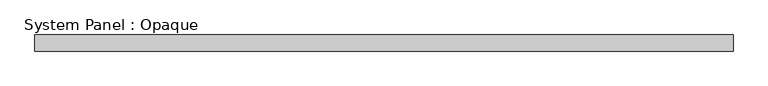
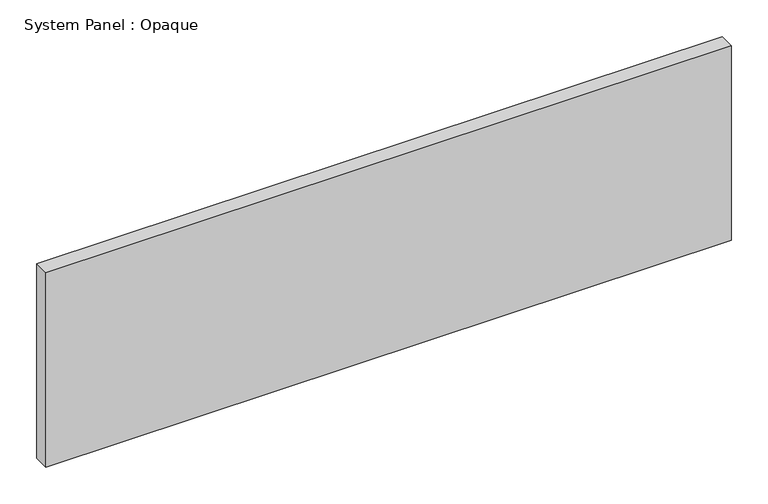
"""IFC4 building model written with IfcOpenShell, lengths in millimetres: plate geometry, System Panel : Opaque."""

from ifc_helpers import new_model, si_unit, origin, origin_with_axes, place, context, project, spatial, polyline, outline, extrude, source, transform, mapped, element, save


def system_panel_opaque_66f26a5c(model_context):
    return source(origin(), model_context, "Body", "SweptSolid", [
        extrude(outline(polyline([(541.726465, -12.5), (-541.726465, -12.5), (-541.726465, 12.5), (541.726465, 12.5), (541.726465, -12.5)])), origin_with_axes(), (0.0, 0.0, 1.0), 325.0),
    ])


if __name__ == "__main__":
    model = new_model("IFC4")
    model_context = context("Model", 3, world=origin())
    ifc_project = project(units=[si_unit("LENGTHUNIT", "METRE", prefix="MILLI")], contexts=[model_context])
    site = spatial("IfcSite", under=ifc_project)
    building = spatial("IfcBuilding", under=site)
    placement = place(None, origin())
    system_panel_opaque_shape = system_panel_opaque_66f26a5c(model_context)
    element("IfcPlate", 1, ObjectType="System Panel : Opaque", at=placement, inside=building, context=model_context, shape_type="MappedRepresentation", body=[
        mapped(system_panel_opaque_shape, transform((0.0, 0.0, 0.0), x_axis=(1.0, 0.0, 0.0), y_axis=(0.0, 1.0, 0.0), z_axis=(0.0, 0.0, 1.0))),
    ])
    save(model, "model.ifc")
